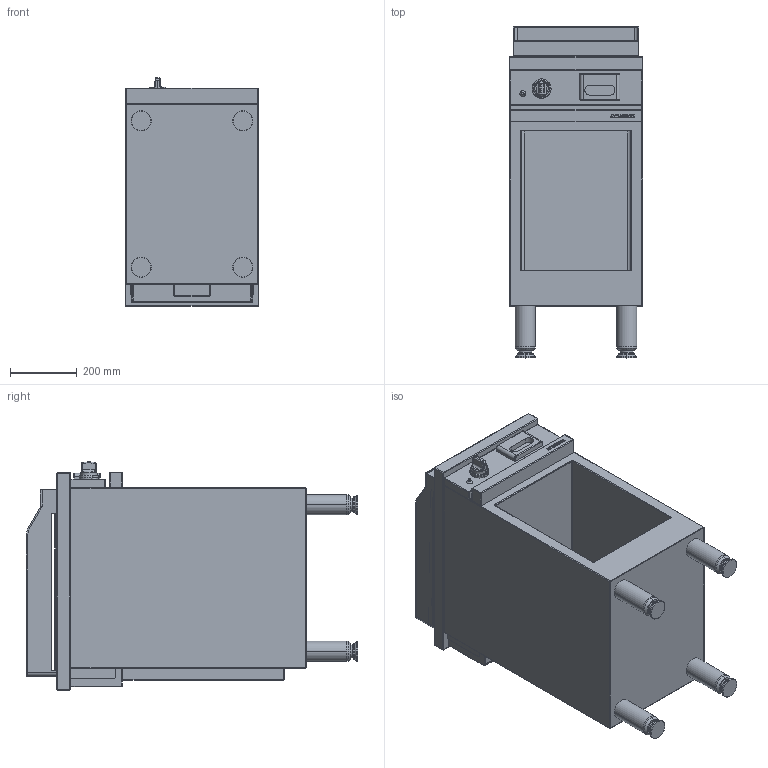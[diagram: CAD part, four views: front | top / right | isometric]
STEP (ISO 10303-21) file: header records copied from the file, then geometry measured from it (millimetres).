
FILE_DESCRIPTION((''),'2;1');
FILE_NAME('CMG410SLR_EXPORT_STEP_ASM','2017-11-22T',('r.avril'),(''),'PRO/ENGINEER BY PARAMETRIC TECHNOLOGY CORPORATION, 2014200','PRO/ENGINEER BY PARAMETRIC TECHNOLOGY CORPORATION, 2014200','');
FILE_SCHEMA(('AP203_CONFIGURATION_CONTROLLED_3D_DESIGN_OF_MECHANICAL_PARTS_AND_ASSEMBLIES_MIM_LF { 1 0 10303 403 2 1 2 }'));
Length unit declared in the file: millimetre
Products named in the file (11): MODULES_AMB_400_EXPORT_STEP; TABLE_410_GRILLADE; TABLE_410_GRILLADE_ASM; ALLUMEUR_EXPORT_STEP; TIROIR_GRILLADE_EXPORT_STEP; MANETTE_AMB_EXPORT_STEP; CEINTURE_PLAQUE_GRILLADE_400; 50288700; 50289100; 65070002_ASM; CMG410SLR_EXPORT_STEP_ASM
Assembly tree (10 placements, depth 3):
  CMG410SLR_EXPORT_STEP_ASM
    MODULES_AMB_400_EXPORT_STEP
    TABLE_410_GRILLADE_ASM
      TABLE_410_GRILLADE
    ALLUMEUR_EXPORT_STEP
    TIROIR_GRILLADE_EXPORT_STEP
    MANETTE_AMB_EXPORT_STEP
    65070002_ASM
      CEINTURE_PLAQUE_GRILLADE_400
      50288700
      50289100
Bounding box: 400 x 992.34 x 682.5 mm (x, y, z)
Volume: 60153074.3 mm3; surface area: 4908228.9 mm2
Topology: 15 solids, 40 shells, 685 faces, 2301 edges, 1916 vertices
Faces by surface type: plane 251, cylinder 240, cone 86, torus 58, sphere 38, bspline 12
Entity records: 33029 total; most frequent: CARTESIAN_POINT 7905, DIRECTION 4100, ORIENTED_EDGE 3608, EDGE_CURVE 2043, AXIS2_PLACEMENT_3D 1447, VERTEX_POINT 1432, VECTOR 1173, LINE 1173
